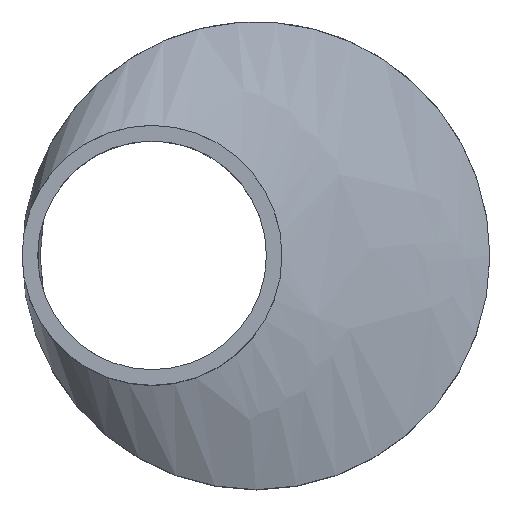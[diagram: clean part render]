
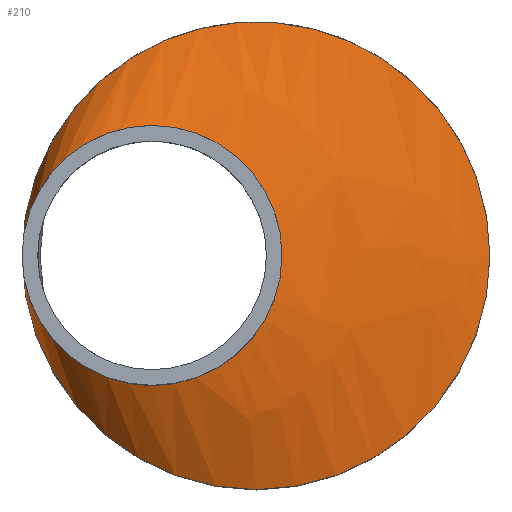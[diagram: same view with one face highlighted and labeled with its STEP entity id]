
A CAD part, top view. The second image highlights one B-rep face of the part: STEP entity #210.
In plain terms, the highlighted free-form (B-spline) face has degree [1, 2] with [2, 9] control points.
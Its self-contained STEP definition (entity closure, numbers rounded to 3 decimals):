
#15=B_SPLINE_CURVE_WITH_KNOTS($,1,(#401,#402),.UNSPECIFIED.,.F.,.F.,(2,
2),(-0.542,0.),.UNSPECIFIED.);
#17=(
BOUNDED_SURFACE()
B_SPLINE_SURFACE(1,2,((#379,#380,#381,#382,#383,#384,#385,#386,#387),(#388,
#389,#390,#391,#392,#393,#394,#395,#396)),.UNSPECIFIED.,.F.,.T.,.F.)
B_SPLINE_SURFACE_WITH_KNOTS((2,2),(3,2,2,2,3),(-2.5,0.828),
(-3.142,-1.571,0.,1.571,3.142),
 .UNSPECIFIED.)
GEOMETRIC_REPRESENTATION_ITEM()
RATIONAL_B_SPLINE_SURFACE(((1.,0.707,1.,0.707,1.,
0.707,1.,0.707,1.),(1.,0.707,1.,0.707,
1.,0.707,1.,0.707,1.)))
REPRESENTATION_ITEM($)
SURFACE()
);
#47=FACE_OUTER_BOUND($,#67,.T.);
#67=EDGE_LOOP($,(#167,#168,#169,#170,#171,#172));
#83=CIRCLE($,#231,45.);
#84=CIRCLE($,#232,45.);
#93=CIRCLE($,#243,25.);
#94=CIRCLE($,#244,25.);
#103=VERTEX_POINT($,#337);
#104=VERTEX_POINT($,#338);
#113=VERTEX_POINT($,#397);
#114=VERTEX_POINT($,#398);
#123=EDGE_CURVE($,#103,#104,#83,.T.);
#124=EDGE_CURVE($,#104,#103,#84,.T.);
#134=EDGE_CURVE($,#113,#114,#93,.T.);
#135=EDGE_CURVE($,#114,#113,#94,.T.);
#136=EDGE_CURVE($,#114,#104,#15,.T.);
#167=ORIENTED_EDGE($,*,*,#134,.F.);
#168=ORIENTED_EDGE($,*,*,#135,.F.);
#169=ORIENTED_EDGE($,*,*,#136,.T.);
#170=ORIENTED_EDGE($,*,*,#123,.F.);
#171=ORIENTED_EDGE($,*,*,#124,.F.);
#172=ORIENTED_EDGE($,*,*,#136,.F.);
#210=ADVANCED_FACE($,(#47),#17,.F.);
#231=AXIS2_PLACEMENT_3D($,#339,#278,#279);
#232=AXIS2_PLACEMENT_3D($,#340,#280,#281);
#243=AXIS2_PLACEMENT_3D($,#399,#302,#303);
#244=AXIS2_PLACEMENT_3D($,#400,#304,#305);
#278=DIRECTION('center_axis',(0.,0.,-1.));
#279=DIRECTION('ref_axis',(-1.,0.,0.));
#280=DIRECTION('center_axis',(0.,0.,-1.));
#281=DIRECTION('ref_axis',(-1.,0.,0.));
#302=DIRECTION('center_axis',(0.,0.,1.));
#303=DIRECTION('ref_axis',(-1.,0.,0.));
#304=DIRECTION('center_axis',(0.,0.,1.));
#305=DIRECTION('ref_axis',(-1.,0.,0.));
#337=CARTESIAN_POINT('',(45.,0.,37.));
#338=CARTESIAN_POINT('',(-30.244,33.322,37.));
#339=CARTESIAN_POINT('Origin',(0.,0.,37.));
#340=CARTESIAN_POINT('Origin',(0.,0.,37.));
#379=CARTESIAN_POINT('Ctrl Pts',(0.,101.615,
0.109));
#380=CARTESIAN_POINT('Ctrl Pts',(-45.,101.615,-36.782));
#381=CARTESIAN_POINT('Ctrl Pts',(-45.,0.,-36.782));
#382=CARTESIAN_POINT('Ctrl Pts',(-45.,-101.615,-36.782));
#383=CARTESIAN_POINT('Ctrl Pts',(0.,-101.615,
0.109));
#384=CARTESIAN_POINT('Ctrl Pts',(45.,-101.615,37.));
#385=CARTESIAN_POINT('Ctrl Pts',(45.,0.,37.));
#386=CARTESIAN_POINT('Ctrl Pts',(45.,101.615,37.));
#387=CARTESIAN_POINT('Ctrl Pts',(0.,101.615,
0.109));
#388=CARTESIAN_POINT('Ctrl Pts',(-40.263,10.697,49.222));
#389=CARTESIAN_POINT('Ctrl Pts',(-45.,10.697,45.338));
#390=CARTESIAN_POINT('Ctrl Pts',(-45.,0.,45.338));
#391=CARTESIAN_POINT('Ctrl Pts',(-45.,-10.697,45.338));
#392=CARTESIAN_POINT('Ctrl Pts',(-40.263,-10.697,49.222));
#393=CARTESIAN_POINT('Ctrl Pts',(-35.526,-10.697,53.105));
#394=CARTESIAN_POINT('Ctrl Pts',(-35.526,0.,
53.105));
#395=CARTESIAN_POINT('Ctrl Pts',(-35.526,10.697,53.105));
#396=CARTESIAN_POINT('Ctrl Pts',(-40.263,10.697,49.222));
#397=CARTESIAN_POINT('',(5.,0.,45.));
#398=CARTESIAN_POINT('',(-36.802,18.512,45.));
#399=CARTESIAN_POINT('Origin',(-20.,0.,45.));
#400=CARTESIAN_POINT('Origin',(-20.,0.,45.));
#401=CARTESIAN_POINT('Ctrl Pts',(-36.802,18.512,45.));
#402=CARTESIAN_POINT('Ctrl Pts',(-30.244,33.322,37.));
